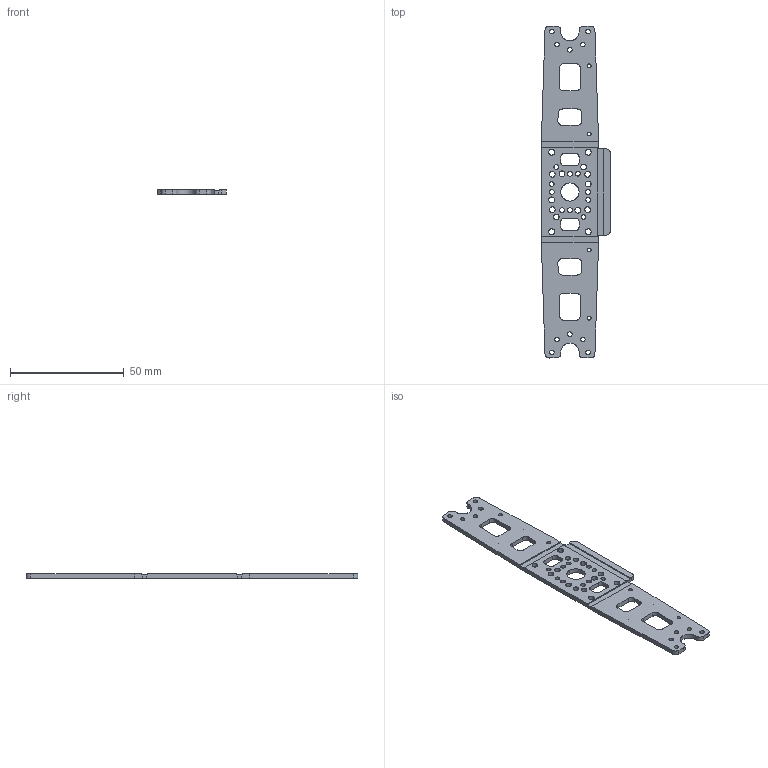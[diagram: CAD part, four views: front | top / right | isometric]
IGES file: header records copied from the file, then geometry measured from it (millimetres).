
Global section: file name: C:\Users\Knabe\Documents\Classes\8 Semester 8\DARwIn\Deliverables\DARwIn OP\DARwIn OP Part Files\CAD 2D\2D IGS\16_FR07_H132.igs; native system: NX V7.0; preprocessor: SIEMENS PLM Software NX 7.0; date: 20110525.175250; units: millimetre
Bounding box: 30.32 x 146.04 x 2 mm (x, y, z)
Surface area: 7692.7 mm2 (no closed solid volume)
Topology: 0 solids, 0 shells, 236 faces, 1856 edges, 1848 vertices
Faces by surface type: bspline 236
